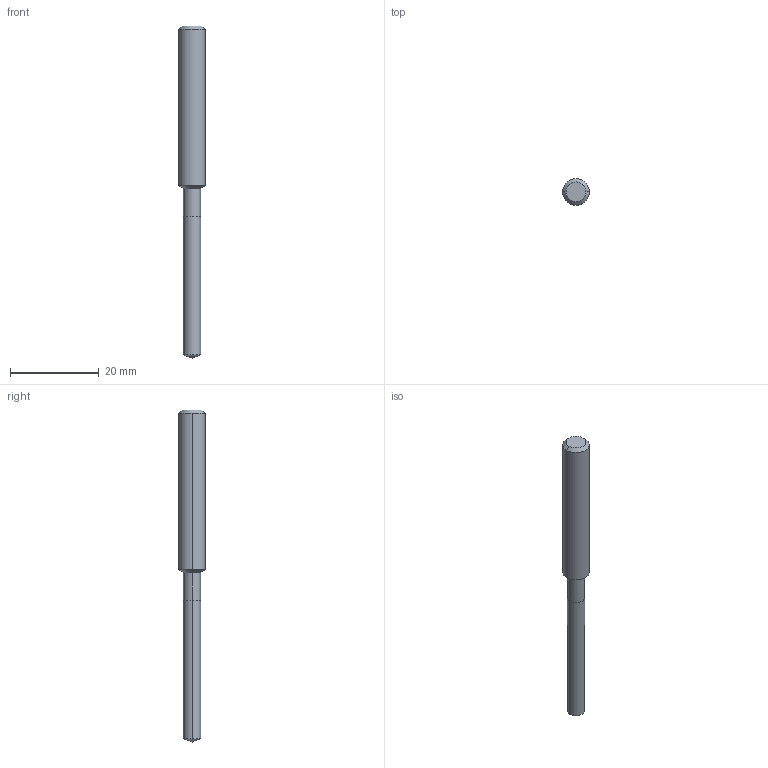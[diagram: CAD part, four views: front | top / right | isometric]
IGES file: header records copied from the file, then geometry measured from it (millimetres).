
Start section: 3D InterOp IGES (v. 2020 1.0.1), Spatial Corp. Copyright (c) 1999-2017.
Global section: file name: WZB12225_3.9.igs; native system: Spatial Corp.; preprocessor: 3D InterOp GENERIC/IGES 3.0; author: Noname; organization: Noname; date: 20201104.104642; units: metre
Bounding box: 6 x 6 x 75 mm (x, y, z)
Surface area: 1190.4 mm2 (no closed solid volume)
Topology: 0 solids, 0 shells, 14 faces, 54 edges, 52 vertices
Faces by surface type: revolution 12, extrusion 2
